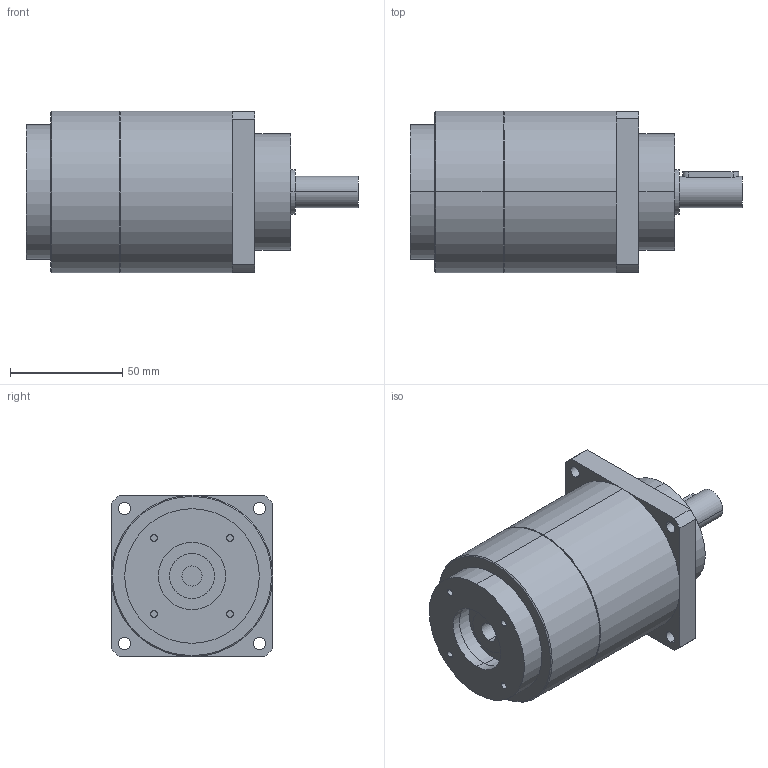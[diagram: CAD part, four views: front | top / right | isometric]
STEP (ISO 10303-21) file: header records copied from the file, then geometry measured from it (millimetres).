
FILE_DESCRIPTION(('CoCreate Modeling STEP Export'),'2;1');
FILE_NAME('GPT75_ig-9-12-16-20-25-28-35-40-50-70-100_14_B5T_9_P29.stp','2014-08-27T13:44:19',(''),(''),'CoCreate Modeling STEP processor for AP214 (Solid Model)','CoCreate Modeling 16.00C 25-Feb-2009 (C) Parametric Technology GmbH','');
FILE_SCHEMA(('AUTOMOTIVE_DESIGN { 1 0 10303 214 1 1 1 1 }'));
Length unit declared in the file: millimetre
Products named in the file (2): GPT75_ig-9-12-16-20-25-28-35-40-50-70-100_14_B5T_9_P29
Assembly tree (1 placements, depth 2):
  GPT75_ig-9-12-16-20-25-28-35-40-50-70-100_14_B5T_9_P29
    GPT75_ig-9-12-16-20-25-28-35-40-50-70-100_14_B5T_9_P29
Bounding box: 148 x 72 x 72 mm (x, y, z)
Volume: 440725 mm3; surface area: 41211.7 mm2
Topology: 1 solids, 1 shells, 75 faces, 177 edges, 118 vertices
Faces by surface type: cylinder 44, plane 27, cone 4
Entity records: 2271 total; most frequent: CARTESIAN_POINT 680, ORIENTED_EDGE 354, DIRECTION 278, EDGE_CURVE 177, VERTEX_POINT 118, AXIS2_PLACEMENT_3D 104, EDGE_LOOP 97, FACE_OUTER_BOUND 75
